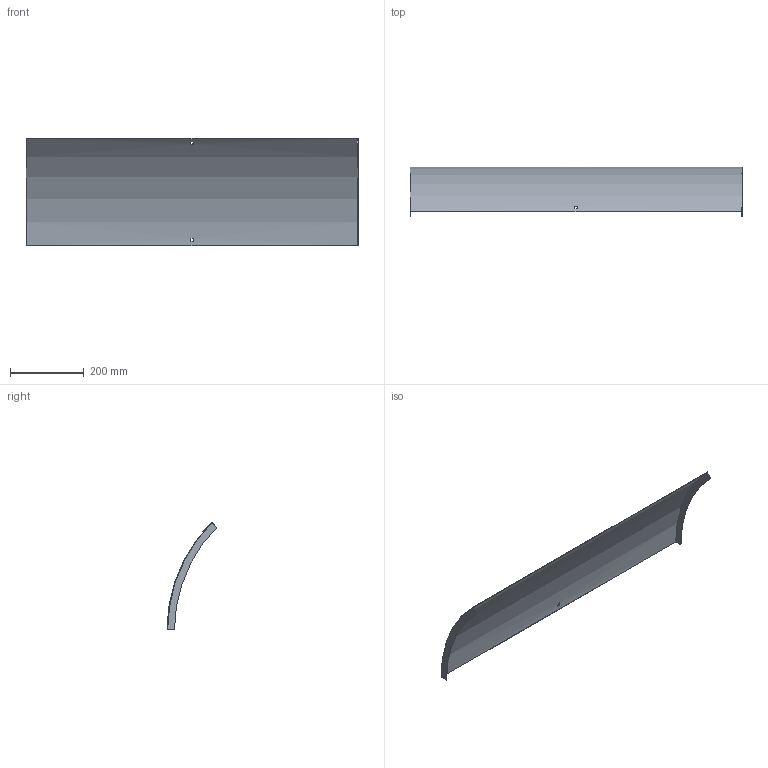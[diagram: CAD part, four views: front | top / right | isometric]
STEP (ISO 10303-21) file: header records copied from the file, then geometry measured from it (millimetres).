
FILE_DESCRIPTION (( 'STEP AP214' ), '1' );
FILE_NAME ('B2_34N3J900.step', '2025-02-21T10:37:22', ( '' ), ( '' ), 'SwSTEP 2.0', 'SolidWorks 2023', '' );
FILE_SCHEMA (( 'AUTOMOTIVE_DESIGN' ));
Length unit declared in the file: millimetre
Products named in the file (1): B2_34N3J900
Bounding box: 903 x 135.4 x 292.74 mm (x, y, z)
Volume: 457026.2 mm3; surface area: 613211.5 mm2
Topology: 1 solids, 1 shells, 18 faces, 48 edges, 32 vertices
Faces by surface type: plane 14, cylinder 4
Entity records: 599 total; most frequent: DIRECTION 102, CARTESIAN_POINT 99, ORIENTED_EDGE 96, EDGE_CURVE 48, AXIS2_PLACEMENT_3D 35, VECTOR 32, LINE 32, VERTEX_POINT 32
